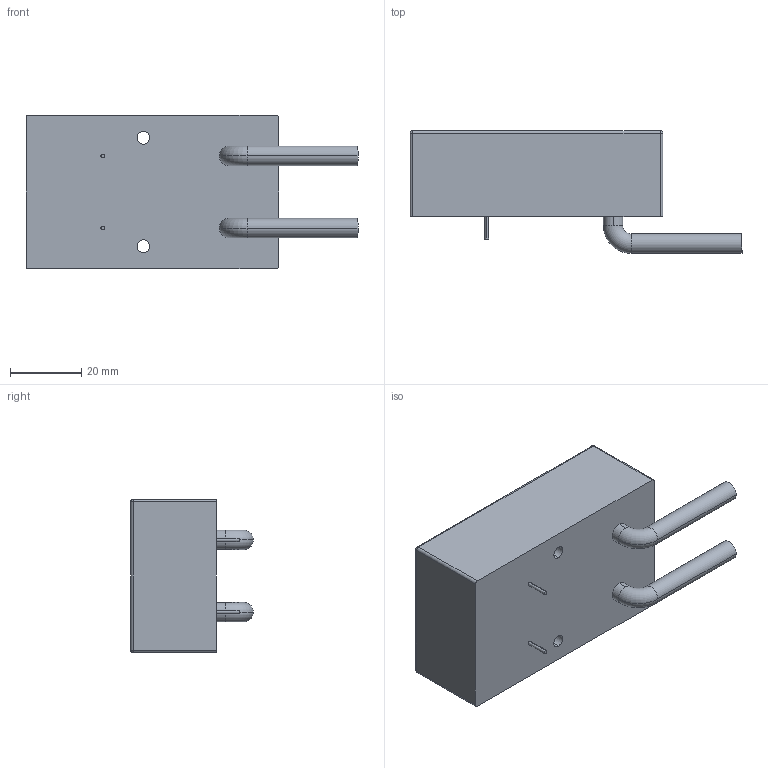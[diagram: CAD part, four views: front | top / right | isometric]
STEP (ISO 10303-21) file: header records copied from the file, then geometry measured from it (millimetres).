
FILE_DESCRIPTION (( 'STEP AP214' ), '1' );
FILE_NAME ('F70-F80.STEP', '2017-10-17T17:47:48', ( '' ), ( '' ), 'SwSTEP 2.0', 'SolidWorks 2017', '' );
FILE_SCHEMA (( 'AUTOMOTIVE_DESIGN' ));
Length unit declared in the file: inch
Products named in the file (1): F70-F80
Bounding box: 93.42 x 34.48 x 43.18 mm (x, y, z)
Volume: 75546.8 mm3; surface area: 13521.9 mm2
Topology: 1 solids, 1 shells, 42 faces, 96 edges, 56 vertices
Faces by surface type: cylinder 24, plane 10, torus 4, sphere 4
Entity records: 1680 total; most frequent: DIRECTION 234, CARTESIAN_POINT 191, ORIENTED_EDGE 184, AXIS2_PLACEMENT_3D 99, EDGE_CURVE 92, CIRCLE 56, VERTEX_POINT 56, EDGE_LOOP 50
